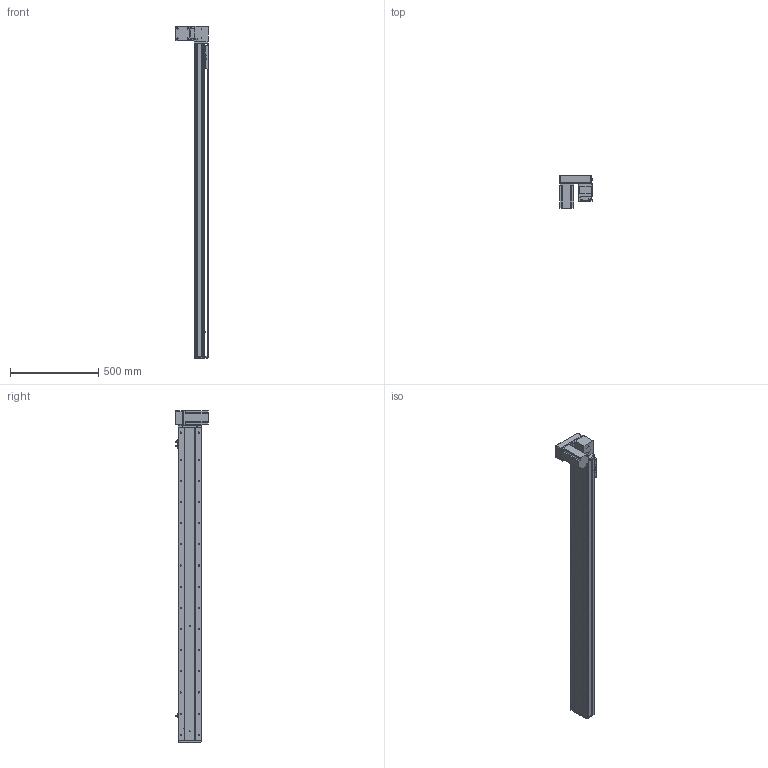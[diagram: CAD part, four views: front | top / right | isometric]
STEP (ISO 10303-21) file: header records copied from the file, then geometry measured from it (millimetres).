
FILE_DESCRIPTION (( 'STEP AP214' ), '1' );
FILE_NAME ('KSD130B-S1550-MRD-CM.STEP', '2019-11-16T01:54:39', ( '微软用户' ), ( '微软中国' ), 'SwSTEP 2.0', 'SolidWorks 2014', '' );
FILE_SCHEMA (( 'AUTOMOTIVE_DESIGN' ));
Length unit declared in the file: millimetre
Products named in the file (12): 覜茼え100遵圉猾敕; U倰嫖萇EEㄜSX672; 130宽盖板半封闭同步带-1550行程; 130宽马达安装板同步带右-改镜向_默认<按加工>; 130宽马达安装板同步带半封闭; 130宽同步带安装座半封闭; 130宽端盖同步带半封闭; 130宽底板半封闭同步带-1550行程; KSD130B-S1550-MRD-CM; 130宽模组保护罩上下左右折-同步带; 台达ECMA－C20807AS伺服电机; 130宽模组马达安装板连板上下折丝杆同步带
Assembly tree (13 placements, depth 2):
  KSD130B-S1550-MRD-CM
    130宽底板半封闭同步带-1550行程
    130宽端盖同步带半封闭
    130宽同步带安装座半封闭
    130宽马达安装板同步带半封闭
    130宽马达安装板同步带右-改镜向_默认<按加工>
    130宽盖板半封闭同步带-1550行程
    U倰嫖萇EEㄜSX672  x3
    覜茼え100遵圉猾敕
    130宽模组马达安装板连板上下折丝杆同步带
    台达ECMA－C20807AS伺服电机
    130宽模组保护罩上下左右折-同步带
Bounding box: 186 x 184.8 x 1883 mm (x, y, z)
Volume: 6450168.4 mm3; surface area: 1811655.4 mm2
Topology: 14 solids, 14 shells, 1667 faces, 4825 edges, 3061 vertices
Faces by surface type: cylinder 814, plane 642, cone 211
Entity records: 56227 total; most frequent: CARTESIAN_POINT 10738, DIRECTION 8503, ORIENTED_EDGE 8214, EDGE_CURVE 4107, AXIS2_PLACEMENT_3D 3126, VERTEX_POINT 2685, VECTOR 2251, LINE 2251
